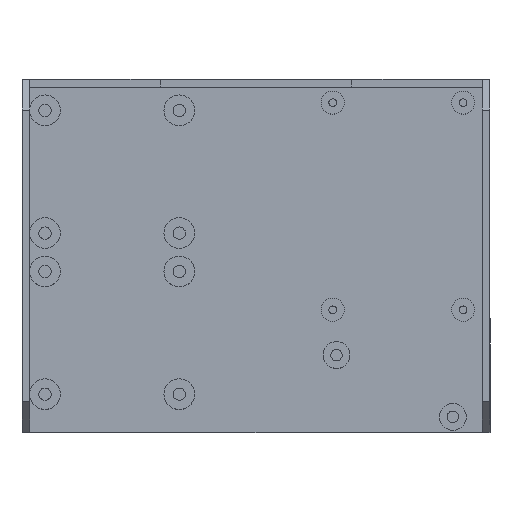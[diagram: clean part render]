
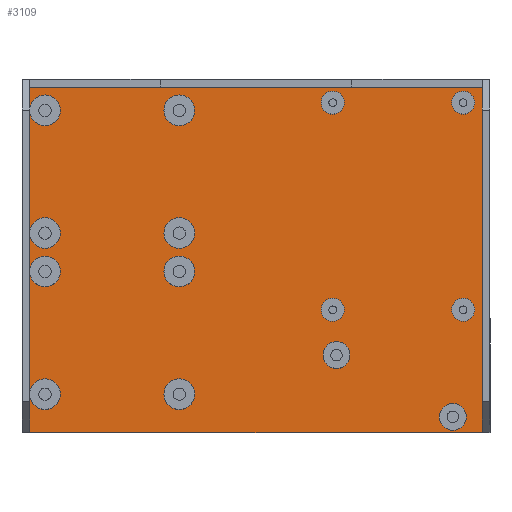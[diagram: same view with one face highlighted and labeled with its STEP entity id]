
A CAD part, top view. The second image highlights one B-rep face of the part: STEP entity #3109.
In plain terms, the highlighted planar face has unit normal (0, 0, 1).
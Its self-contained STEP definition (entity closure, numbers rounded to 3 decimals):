
#15=LINE('',#4399,#365);
#16=LINE('',#4401,#366);
#17=LINE('',#4403,#367);
#18=LINE('',#4406,#368);
#19=LINE('',#4409,#369);
#20=LINE('',#4412,#370);
#21=LINE('',#4415,#371);
#22=LINE('',#4416,#372);
#365=VECTOR('',#3561,10.);
#366=VECTOR('',#3562,10.);
#367=VECTOR('',#3563,10.);
#368=VECTOR('',#3566,10.);
#369=VECTOR('',#3569,10.);
#370=VECTOR('',#3572,10.);
#371=VECTOR('',#3575,10.);
#372=VECTOR('',#3576,10.);
#717=PLANE('',#3297);
#865=FACE_BOUND('',#1164,.T.);
#866=FACE_BOUND('',#1165,.T.);
#867=FACE_BOUND('',#1166,.T.);
#868=FACE_BOUND('',#1167,.T.);
#869=FACE_BOUND('',#1168,.T.);
#870=FACE_BOUND('',#1169,.T.);
#871=FACE_BOUND('',#1170,.T.);
#872=FACE_BOUND('',#1171,.T.);
#873=FACE_BOUND('',#1172,.T.);
#874=FACE_BOUND('',#1173,.T.);
#979=FACE_OUTER_BOUND('',#1163,.T.);
#1163=EDGE_LOOP('',(#2237,#2238,#2239,#2240,#2241,#2242,#2243,#2244,#2245,
#2246,#2247,#2248));
#1164=EDGE_LOOP('',(#2249));
#1165=EDGE_LOOP('',(#2250));
#1166=EDGE_LOOP('',(#2251));
#1167=EDGE_LOOP('',(#2252));
#1168=EDGE_LOOP('',(#2253));
#1169=EDGE_LOOP('',(#2254));
#1170=EDGE_LOOP('',(#2255));
#1171=EDGE_LOOP('',(#2256));
#1172=EDGE_LOOP('',(#2257));
#1173=EDGE_LOOP('',(#2258));
#1446=CIRCLE('',#3288,3.5);
#1450=CIRCLE('',#3295,3.5);
#1451=CIRCLE('',#3298,4.);
#1452=CIRCLE('',#3299,4.);
#1453=CIRCLE('',#3300,4.);
#1454=CIRCLE('',#3301,4.);
#1455=CIRCLE('',#3302,4.);
#1456=CIRCLE('',#3303,4.);
#1457=CIRCLE('',#3304,3.);
#1458=CIRCLE('',#3305,3.);
#1459=CIRCLE('',#3306,3.);
#1460=CIRCLE('',#3307,3.);
#1461=CIRCLE('',#3308,4.);
#1462=CIRCLE('',#3309,4.);
#1514=VERTEX_POINT('',#4382);
#1518=VERTEX_POINT('',#4393);
#1519=VERTEX_POINT('',#4397);
#1520=VERTEX_POINT('',#4398);
#1521=VERTEX_POINT('',#4400);
#1522=VERTEX_POINT('',#4402);
#1523=VERTEX_POINT('',#4405);
#1524=VERTEX_POINT('',#4408);
#1525=VERTEX_POINT('',#4411);
#1526=VERTEX_POINT('',#4414);
#1527=VERTEX_POINT('',#4417);
#1528=VERTEX_POINT('',#4419);
#1529=VERTEX_POINT('',#4421);
#1530=VERTEX_POINT('',#4423);
#1531=VERTEX_POINT('',#4425);
#1532=VERTEX_POINT('',#4427);
#1533=VERTEX_POINT('',#4429);
#1534=VERTEX_POINT('',#4431);
#1810=EDGE_CURVE('',#1514,#1514,#1446,.T.);
#1814=EDGE_CURVE('',#1518,#1518,#1450,.T.);
#1815=EDGE_CURVE('',#1519,#1520,#15,.T.);
#1816=EDGE_CURVE('',#1520,#1521,#16,.T.);
#1817=EDGE_CURVE('',#1521,#1522,#17,.T.);
#1818=EDGE_CURVE('',#1522,#1522,#1451,.T.);
#1819=EDGE_CURVE('',#1522,#1523,#18,.T.);
#1820=EDGE_CURVE('',#1523,#1523,#1452,.T.);
#1821=EDGE_CURVE('',#1523,#1524,#19,.T.);
#1822=EDGE_CURVE('',#1524,#1524,#1453,.T.);
#1823=EDGE_CURVE('',#1524,#1525,#20,.T.);
#1824=EDGE_CURVE('',#1525,#1525,#1454,.T.);
#1825=EDGE_CURVE('',#1525,#1526,#21,.T.);
#1826=EDGE_CURVE('',#1526,#1519,#22,.T.);
#1827=EDGE_CURVE('',#1527,#1527,#1455,.T.);
#1828=EDGE_CURVE('',#1528,#1528,#1456,.T.);
#1829=EDGE_CURVE('',#1529,#1529,#1457,.T.);
#1830=EDGE_CURVE('',#1530,#1530,#1458,.T.);
#1831=EDGE_CURVE('',#1531,#1531,#1459,.T.);
#1832=EDGE_CURVE('',#1532,#1532,#1460,.T.);
#1833=EDGE_CURVE('',#1533,#1533,#1461,.T.);
#1834=EDGE_CURVE('',#1534,#1534,#1462,.T.);
#2237=ORIENTED_EDGE('',*,*,#1815,.T.);
#2238=ORIENTED_EDGE('',*,*,#1816,.T.);
#2239=ORIENTED_EDGE('',*,*,#1817,.T.);
#2240=ORIENTED_EDGE('',*,*,#1818,.T.);
#2241=ORIENTED_EDGE('',*,*,#1819,.T.);
#2242=ORIENTED_EDGE('',*,*,#1820,.T.);
#2243=ORIENTED_EDGE('',*,*,#1821,.T.);
#2244=ORIENTED_EDGE('',*,*,#1822,.T.);
#2245=ORIENTED_EDGE('',*,*,#1823,.T.);
#2246=ORIENTED_EDGE('',*,*,#1824,.T.);
#2247=ORIENTED_EDGE('',*,*,#1825,.T.);
#2248=ORIENTED_EDGE('',*,*,#1826,.T.);
#2249=ORIENTED_EDGE('',*,*,#1810,.T.);
#2250=ORIENTED_EDGE('',*,*,#1814,.T.);
#2251=ORIENTED_EDGE('',*,*,#1827,.T.);
#2252=ORIENTED_EDGE('',*,*,#1828,.T.);
#2253=ORIENTED_EDGE('',*,*,#1829,.T.);
#2254=ORIENTED_EDGE('',*,*,#1830,.T.);
#2255=ORIENTED_EDGE('',*,*,#1831,.T.);
#2256=ORIENTED_EDGE('',*,*,#1832,.T.);
#2257=ORIENTED_EDGE('',*,*,#1833,.T.);
#2258=ORIENTED_EDGE('',*,*,#1834,.T.);
#3109=ADVANCED_FACE('',(#979,#865,#866,#867,#868,#869,#870,#871,#872,#873,
#874),#717,.T.);
#3288=AXIS2_PLACEMENT_3D('',#4383,#3541,#3542);
#3295=AXIS2_PLACEMENT_3D('',#4394,#3555,#3556);
#3297=AXIS2_PLACEMENT_3D('',#4396,#3559,#3560);
#3298=AXIS2_PLACEMENT_3D('',#4404,#3564,#3565);
#3299=AXIS2_PLACEMENT_3D('',#4407,#3567,#3568);
#3300=AXIS2_PLACEMENT_3D('',#4410,#3570,#3571);
#3301=AXIS2_PLACEMENT_3D('',#4413,#3573,#3574);
#3302=AXIS2_PLACEMENT_3D('',#4418,#3577,#3578);
#3303=AXIS2_PLACEMENT_3D('',#4420,#3579,#3580);
#3304=AXIS2_PLACEMENT_3D('',#4422,#3581,#3582);
#3305=AXIS2_PLACEMENT_3D('',#4424,#3583,#3584);
#3306=AXIS2_PLACEMENT_3D('',#4426,#3585,#3586);
#3307=AXIS2_PLACEMENT_3D('',#4428,#3587,#3588);
#3308=AXIS2_PLACEMENT_3D('',#4430,#3589,#3590);
#3309=AXIS2_PLACEMENT_3D('',#4432,#3591,#3592);
#3541=DIRECTION('center_axis',(0.,0.,-1.));
#3542=DIRECTION('ref_axis',(-1.,0.,0.));
#3555=DIRECTION('center_axis',(0.,0.,-1.));
#3556=DIRECTION('ref_axis',(-1.,0.,0.));
#3559=DIRECTION('center_axis',(0.,0.,1.));
#3560=DIRECTION('ref_axis',(1.,0.,0.));
#3561=DIRECTION('',(0.,1.,0.));
#3562=DIRECTION('',(-1.,0.,0.));
#3563=DIRECTION('',(0.,-1.,0.));
#3564=DIRECTION('center_axis',(0.,0.,-1.));
#3565=DIRECTION('ref_axis',(-1.,0.,0.));
#3566=DIRECTION('',(0.,-1.,0.));
#3567=DIRECTION('center_axis',(0.,0.,-1.));
#3568=DIRECTION('ref_axis',(-1.,0.,0.));
#3569=DIRECTION('',(0.,-1.,0.));
#3570=DIRECTION('center_axis',(0.,0.,-1.));
#3571=DIRECTION('ref_axis',(-1.,0.,0.));
#3572=DIRECTION('',(0.,-1.,0.));
#3573=DIRECTION('center_axis',(0.,0.,-1.));
#3574=DIRECTION('ref_axis',(-1.,0.,0.));
#3575=DIRECTION('',(0.,-1.,0.));
#3576=DIRECTION('',(1.,0.,0.));
#3577=DIRECTION('center_axis',(0.,0.,-1.));
#3578=DIRECTION('ref_axis',(-1.,0.,0.));
#3579=DIRECTION('center_axis',(0.,0.,-1.));
#3580=DIRECTION('ref_axis',(-1.,0.,0.));
#3581=DIRECTION('center_axis',(0.,0.,-1.));
#3582=DIRECTION('ref_axis',(-1.,0.,0.));
#3583=DIRECTION('center_axis',(0.,0.,-1.));
#3584=DIRECTION('ref_axis',(-1.,0.,0.));
#3585=DIRECTION('center_axis',(0.,0.,-1.));
#3586=DIRECTION('ref_axis',(-1.,0.,0.));
#3587=DIRECTION('center_axis',(0.,0.,-1.));
#3588=DIRECTION('ref_axis',(-1.,0.,0.));
#3589=DIRECTION('center_axis',(0.,0.,-1.));
#3590=DIRECTION('ref_axis',(-1.,0.,0.));
#3591=DIRECTION('center_axis',(0.,0.,-1.));
#3592=DIRECTION('ref_axis',(-1.,0.,0.));
#4382=CARTESIAN_POINT('',(-36.5,-71.8,2.));
#4383=CARTESIAN_POINT('Origin',(-40.,-71.8,2.));
#4393=CARTESIAN_POINT('',(-6.2,-87.9,2.));
#4394=CARTESIAN_POINT('Origin',(-9.7,-87.9,2.));
#4396=CARTESIAN_POINT('Origin',(-61.,-46.,2.));
#4397=CARTESIAN_POINT('',(-2.,-92.,2.));
#4398=CARTESIAN_POINT('',(-2.,-2.,2.));
#4399=CARTESIAN_POINT('',(-2.,-24.,2.));
#4400=CARTESIAN_POINT('',(-120.,-2.,2.));
#4401=CARTESIAN_POINT('',(-90.5,-2.,2.));
#4402=CARTESIAN_POINT('',(-120.,-8.,2.));
#4403=CARTESIAN_POINT('',(-120.,-69.,2.));
#4404=CARTESIAN_POINT('Origin',(-116.,-8.,2.));
#4405=CARTESIAN_POINT('',(-120.,-40.,2.));
#4406=CARTESIAN_POINT('',(-120.,-69.,2.));
#4407=CARTESIAN_POINT('Origin',(-116.,-40.,2.));
#4408=CARTESIAN_POINT('',(-120.,-50.,2.));
#4409=CARTESIAN_POINT('',(-120.,-69.,2.));
#4410=CARTESIAN_POINT('Origin',(-116.,-50.,2.));
#4411=CARTESIAN_POINT('',(-120.,-82.,2.));
#4412=CARTESIAN_POINT('',(-120.,-69.,2.));
#4413=CARTESIAN_POINT('Origin',(-116.,-82.,2.));
#4414=CARTESIAN_POINT('',(-120.,-92.,2.));
#4415=CARTESIAN_POINT('',(-120.,-69.,2.));
#4416=CARTESIAN_POINT('',(-122.,-92.,2.));
#4417=CARTESIAN_POINT('',(-77.,-82.,2.));
#4418=CARTESIAN_POINT('Origin',(-81.,-82.,2.));
#4419=CARTESIAN_POINT('',(-77.,-40.,2.));
#4420=CARTESIAN_POINT('Origin',(-81.,-40.,2.));
#4421=CARTESIAN_POINT('',(-4.,-60.,2.));
#4422=CARTESIAN_POINT('Origin',(-7.,-60.,2.));
#4423=CARTESIAN_POINT('',(-4.,-6.,2.));
#4424=CARTESIAN_POINT('Origin',(-7.,-6.,2.));
#4425=CARTESIAN_POINT('',(-38.,-6.,2.));
#4426=CARTESIAN_POINT('Origin',(-41.,-6.,2.));
#4427=CARTESIAN_POINT('',(-38.,-60.,2.));
#4428=CARTESIAN_POINT('Origin',(-41.,-60.,2.));
#4429=CARTESIAN_POINT('',(-77.,-8.,2.));
#4430=CARTESIAN_POINT('Origin',(-81.,-8.,2.));
#4431=CARTESIAN_POINT('',(-77.,-50.,2.));
#4432=CARTESIAN_POINT('Origin',(-81.,-50.,2.));
